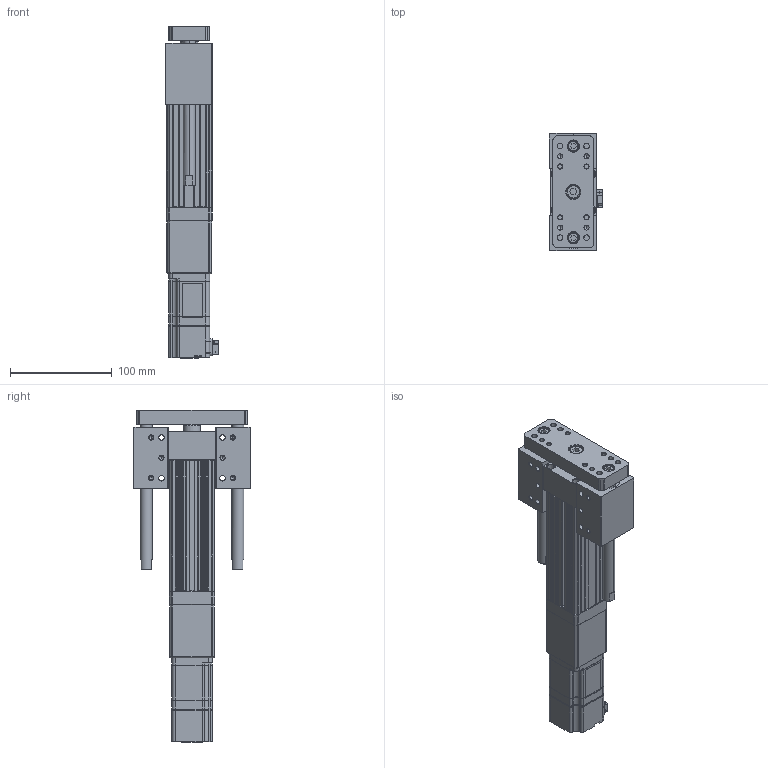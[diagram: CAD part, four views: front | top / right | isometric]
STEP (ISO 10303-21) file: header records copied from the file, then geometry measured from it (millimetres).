
FILE_DESCRIPTION (( 'STEP AP203' ), '1' );
FILE_NAME ('ANS045-HS050-05(10)-W10.STEP', '2019-02-14T02:59:03', ( 'user' ), ( '' ), 'SwSTEP 2.0', 'SolidWorks 2013', '' );
FILE_SCHEMA (( 'CONFIG_CONTROL_DESIGN' ));
Length unit declared in the file: millimetre
Products named in the file (4): ANS045 HS050 VER2; ANS045 ROD ST050 H; SGMJV_01A_A21; ANS045-HS050-05(10)-W10
Assembly tree (3 placements, depth 2):
  ANS045-HS050-05(10)-W10
    ANS045 HS050 VER2
    ANS045 ROD ST050 H
    SGMJV_01A_A21
Bounding box: 52.3 x 115 x 326.1 mm (x, y, z)
Volume: 679802.5 mm3; surface area: 166667.1 mm2
Topology: 3 solids, 7 shells, 1067 faces, 2681 edges, 1678 vertices
Faces by surface type: plane 542, cylinder 373, cone 150, bspline 2
Entity records: 31939 total; most frequent: CARTESIAN_POINT 5908, DIRECTION 5389, ORIENTED_EDGE 5290, EDGE_CURVE 2645, AXIS2_PLACEMENT_3D 1825, VECTOR 1739, LINE 1739, VERTEX_POINT 1678
